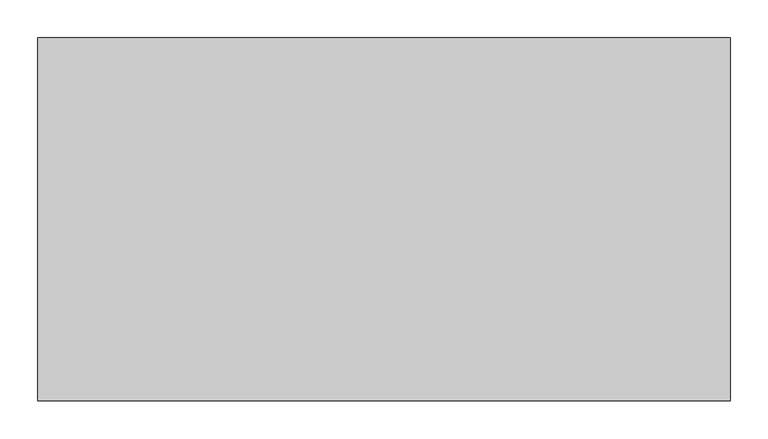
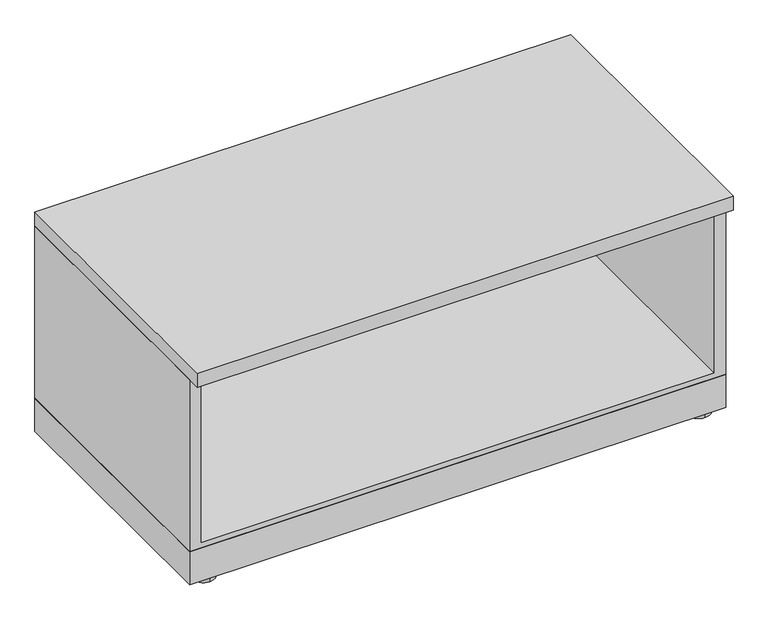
"""IFC4 building model written with IfcOpenShell, lengths in millimetres: furniture geometry, Steelcase - Universal Storage - Lateral File - 1 High - Proud Front : Open - 18 7/8D x 36W."""

from ifc_helpers import new_model, si_unit, point, frame, frame_2d, origin, origin_with_axes, place, context, project, spatial, polyline, circle_curve, trimmed, segment, composite_curve, outline, extrude, source, transform, mapped, element, save


def furniture_1e1c105a(model_context):
    return source(origin(), model_context, "Body", "SweptSolid", [
        extrude(outline(polyline([(914.4, 0.0), (914.4, -457.2), (0.0, -457.2), (0.0, 0.0), (914.4, 0.0)])), frame((0.0, 0.0, 6.3500002), z_axis=(0.0, 0.0, 1.0), x_axis=(1.0, 0.0, 0.0)), (0.0, 0.0, 1.0), 59.6899998),
        extrude(outline(composite_curve([segment(trimmed(circle_curve(frame_2d((879.7290058, -22.3366334)), 20.32), [point((879.7290058, -42.6566334))], [point((879.7290058, -2.0166334))], False, "CARTESIAN"), True, "CONTINUOUS"), segment(trimmed(circle_curve(frame_2d((879.7290058, -22.3366334)), 20.32), [point((879.7290058, -2.0166334))], [point((879.7290058, -42.6566334))], False, "CARTESIAN"), True, "CONTINUOUS")], self_intersect=False)), origin_with_axes(), (0.0, 0.0, 1.0), 6.3500002),
        extrude(outline(composite_curve([segment(trimmed(circle_curve(frame_2d((879.7290058, -436.4508545)), 20.32), [point((879.7290058, -456.7708545))], [point((879.7290058, -416.1308545))], False, "CARTESIAN"), True, "CONTINUOUS"), segment(trimmed(circle_curve(frame_2d((879.7290058, -436.4508545)), 20.32), [point((879.7290058, -416.1308545))], [point((879.7290058, -456.7708545))], False, "CARTESIAN"), True, "CONTINUOUS")], self_intersect=False)), origin_with_axes(), (0.0, 0.0, 1.0), 6.3500002),
        extrude(outline(composite_curve([segment(trimmed(circle_curve(frame_2d((34.29, -22.3366334)), 20.32), [point((34.29, -2.0166334))], [point((34.29, -42.6566334))], False, "CARTESIAN"), True, "CONTINUOUS"), segment(trimmed(circle_curve(frame_2d((34.29, -22.3366334)), 20.32), [point((34.29, -42.6566334))], [point((34.29, -2.0166334))], False, "CARTESIAN"), True, "CONTINUOUS")], self_intersect=False)), origin_with_axes(), (0.0, 0.0, 1.0), 6.3500002),
        extrude(outline(composite_curve([segment(trimmed(circle_curve(frame_2d((34.29, -436.4508545)), 20.32), [point((34.29, -416.1308545))], [point((34.29, -456.7708545))], False, "CARTESIAN"), True, "CONTINUOUS"), segment(trimmed(circle_curve(frame_2d((34.29, -436.4508545)), 20.32), [point((34.29, -456.7708545))], [point((34.29, -416.1308545))], False, "CARTESIAN"), True, "CONTINUOUS")], self_intersect=False)), origin_with_axes(), (0.0, 0.0, 1.0), 6.3500002),
        extrude(outline(polyline([(376.301, 19.05), (376.301, 0.0), (66.04, 0.0), (66.04, 914.4), (376.301, 914.4), (376.301, 895.35), (75.184001, 895.35), (75.184001, 19.05), (376.301, 19.05)])), frame((0.0, -457.0730121, 0.0), z_axis=(0.0, 1.0, 0.0), x_axis=(0.0, 0.0, 1.0)), (0.0, 0.0, 1.0), 457.0730121),
        extrude(outline(polyline([(895.35, 0.0), (895.35, -3.9370001), (19.05, -3.9370001), (19.05, 0.0), (895.35, 0.0)])), frame((0.0, 0.0, 75.184001), z_axis=(0.0, 0.0, 1.0), x_axis=(1.0, 0.0, 0.0)), (0.0, 0.0, 1.0), 301.116999),
        extrude(outline(polyline([(914.4, 0.0), (914.4, -479.298), (0.0, -479.298), (0.0, 0.0), (914.4, 0.0)])), frame((0.0, 0.0, 376.301), z_axis=(0.0, 0.0, 1.0), x_axis=(1.0, 0.0, 0.0)), (0.0, 0.0, 1.0), 25.3999893),
    ])


if __name__ == "__main__":
    model = new_model("IFC4")
    model_context = context("Model", 3, world=origin())
    ifc_project = project(units=[si_unit("LENGTHUNIT", "METRE", prefix="MILLI")], contexts=[model_context])
    site = spatial("IfcSite", under=ifc_project)
    building = spatial("IfcBuilding", under=site)
    placement = place(None, origin())
    furniture_shape = furniture_1e1c105a(model_context)
    element("IfcFurniture", 1, ObjectType="Steelcase - Universal Storage - Lateral File - 1 High - Proud Front : Open - 18 7/8D x 36W", at=placement, inside=building, context=model_context, shape_type="MappedRepresentation", body=[
        mapped(furniture_shape, transform((0.0, 0.0, 0.0), x_axis=(1.0, 0.0, 0.0), y_axis=(0.0, 1.0, 0.0), z_axis=(0.0, 0.0, 1.0))),
    ])
    save(model, "model.ifc")
